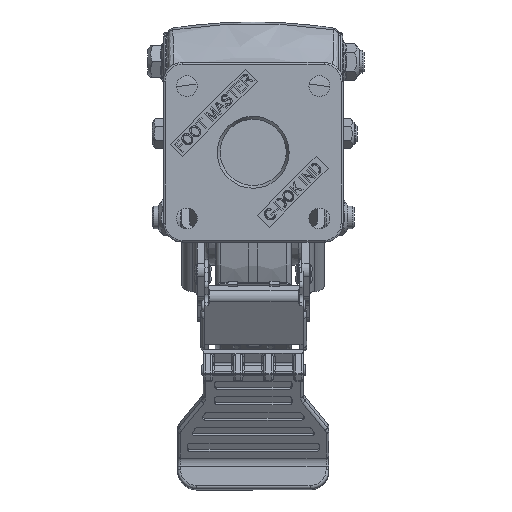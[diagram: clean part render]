
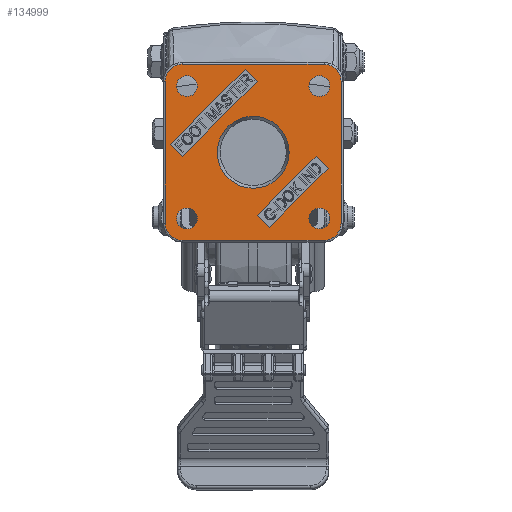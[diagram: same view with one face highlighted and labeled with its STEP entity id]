
A CAD part, top view. The second image highlights one B-rep face of the part: STEP entity #134999.
In plain terms, the highlighted planar face has unit normal (0, 0, 1).
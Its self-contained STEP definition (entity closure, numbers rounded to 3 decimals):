
#134617=CARTESIAN_POINT('',(-46.5,37.5,10.7));
#134618=VERTEX_POINT('',#134617);
#134627=CARTESIAN_POINT('',(-46.5,-37.5,10.7));
#134628=VERTEX_POINT('',#134627);
#134636=CARTESIAN_POINT('',(-46.5,-37.5,10.7));
#134637=DIRECTION('',(0.0,1.0,0.0));
#134638=VECTOR('',#134637,75.);
#134639=LINE('',#134636,#134638);
#134640=EDGE_CURVE('',#134628,#134618,#134639,.T.);
#134650=CARTESIAN_POINT('',(-37.5,46.5,10.7));
#134651=VERTEX_POINT('',#134650);
#134661=CARTESIAN_POINT('',(-37.5,37.5,10.7));
#134662=DIRECTION('',(0.0,0.0,-1.0));
#134663=DIRECTION('',(-0.707,0.707,0.0));
#134664=AXIS2_PLACEMENT_3D('',#134661,#134662,#134663);
#134665=CIRCLE('',#134664,9.);
#134666=EDGE_CURVE('',#134618,#134651,#134665,.T.);
#134676=CARTESIAN_POINT('',(-37.5,-46.5,10.7));
#134677=VERTEX_POINT('',#134676);
#134685=CARTESIAN_POINT('',(-37.5,-37.5,10.7));
#134686=DIRECTION('',(0.0,0.0,-1.0));
#134687=DIRECTION('',(-0.707,-0.707,0.0));
#134688=AXIS2_PLACEMENT_3D('',#134685,#134686,#134687);
#134689=CIRCLE('',#134688,9.);
#134690=EDGE_CURVE('',#134677,#134628,#134689,.T.);
#134702=CARTESIAN_POINT('',(37.5,46.5,10.7));
#134703=VERTEX_POINT('',#134702);
#134720=CARTESIAN_POINT('',(-37.5,46.5,10.7));
#134721=DIRECTION('',(1.0,0.0,0.0));
#134722=VECTOR('',#134721,75.0);
#134723=LINE('',#134720,#134722);
#134724=EDGE_CURVE('',#134651,#134703,#134723,.T.);
#134734=CARTESIAN_POINT('',(37.5,-46.5,10.7));
#134735=VERTEX_POINT('',#134734);
#134743=CARTESIAN_POINT('',(37.5,-46.5,10.7));
#134744=DIRECTION('',(-1.0,0.0,0.0));
#134745=VECTOR('',#134744,75.0);
#134746=LINE('',#134743,#134745);
#134747=EDGE_CURVE('',#134735,#134677,#134746,.T.);
#134759=CARTESIAN_POINT('',(46.5,37.5,10.7));
#134760=VERTEX_POINT('',#134759);
#134778=CARTESIAN_POINT('',(37.5,37.5,10.7));
#134779=DIRECTION('',(0.0,0.0,-1.0));
#134780=DIRECTION('',(0.707,0.707,0.0));
#134781=AXIS2_PLACEMENT_3D('',#134778,#134779,#134780);
#134782=CIRCLE('',#134781,9.);
#134783=EDGE_CURVE('',#134703,#134760,#134782,.T.);
#134795=CARTESIAN_POINT('',(46.5,-37.5,10.7));
#134796=VERTEX_POINT('',#134795);
#134804=CARTESIAN_POINT('',(37.5,-37.5,10.7));
#134805=DIRECTION('',(0.0,0.0,-1.0));
#134806=DIRECTION('',(0.707,-0.707,0.0));
#134807=AXIS2_PLACEMENT_3D('',#134804,#134805,#134806);
#134808=CIRCLE('',#134807,9.);
#134809=EDGE_CURVE('',#134796,#134735,#134808,.T.);
#134828=CARTESIAN_POINT('',(46.5,37.5,10.7));
#134829=DIRECTION('',(0.0,-1.0,0.0));
#134830=VECTOR('',#134829,75.);
#134831=LINE('',#134828,#134830);
#134832=EDGE_CURVE('',#134760,#134796,#134831,.T.);
#134861=CARTESIAN_POINT('',(0.,0.,10.7));
#134862=DIRECTION('',(0.0,0.0,1.0));
#134863=DIRECTION('',(1.0,0.0,0.0));
#134864=AXIS2_PLACEMENT_3D('',#134861,#134862,#134863);
#134865=PLANE('',#134864);
#134866=ORIENTED_EDGE('',*,*,#134640,.F.);
#134867=ORIENTED_EDGE('',*,*,#134690,.F.);
#134868=ORIENTED_EDGE('',*,*,#134747,.F.);
#134869=ORIENTED_EDGE('',*,*,#134809,.F.);
#134870=ORIENTED_EDGE('',*,*,#134832,.F.);
#134871=ORIENTED_EDGE('',*,*,#134783,.F.);
#134872=ORIENTED_EDGE('',*,*,#134724,.F.);
#134873=ORIENTED_EDGE('',*,*,#134666,.F.);
#134874=EDGE_LOOP('',(#134866,#134867,#134868,#134869,#134870,#134871,#134872,#134873));
#134875=FACE_OUTER_BOUND('',#134874,.T.);
#134876=CARTESIAN_POINT('',(19.,0.,10.7));
#134877=VERTEX_POINT('',#134876);
#134878=CARTESIAN_POINT('',(0.,0.,10.7));
#134879=DIRECTION('',(0.0,0.0,-1.0));
#134880=DIRECTION('',(1.0,0.0,0.0));
#134881=AXIS2_PLACEMENT_3D('',#134878,#134879,#134880);
#134882=CIRCLE('',#134881,19.0);
#134883=EDGE_CURVE('',#134877,#134877,#134882,.T.);
#134884=ORIENTED_EDGE('',*,*,#134883,.T.);
#134885=EDGE_LOOP('',(#134884));
#134886=FACE_BOUND('',#134885,.T.);
#134887=CARTESIAN_POINT('',(40.5,35.0,10.7));
#134888=VERTEX_POINT('',#134887);
#134889=CARTESIAN_POINT('',(35.,35.0,10.7));
#134890=DIRECTION('',(0.0,0.0,-1.0));
#134891=DIRECTION('',(-1.0,0.0,0.0));
#134892=AXIS2_PLACEMENT_3D('',#134889,#134890,#134891);
#134893=CIRCLE('',#134892,5.5);
#134894=EDGE_CURVE('',#134888,#134888,#134893,.T.);
#134895=ORIENTED_EDGE('',*,*,#134894,.T.);
#134896=EDGE_LOOP('',(#134895));
#134897=FACE_BOUND('',#134896,.T.);
#134898=CARTESIAN_POINT('',(-35.,40.5,10.7));
#134899=VERTEX_POINT('',#134898);
#134900=CARTESIAN_POINT('',(-35.,35.,10.7));
#134901=DIRECTION('',(0.0,0.0,-1.0));
#134902=DIRECTION('',(0.0,-1.0,0.0));
#134903=AXIS2_PLACEMENT_3D('',#134900,#134901,#134902);
#134904=CIRCLE('',#134903,5.5);
#134905=EDGE_CURVE('',#134899,#134899,#134904,.T.);
#134906=ORIENTED_EDGE('',*,*,#134905,.T.);
#134907=EDGE_LOOP('',(#134906));
#134908=FACE_BOUND('',#134907,.T.);
#134909=CARTESIAN_POINT('',(-40.5,-35.0,10.7));
#134910=VERTEX_POINT('',#134909);
#134911=CARTESIAN_POINT('',(-35.,-35.0,10.7));
#134912=DIRECTION('',(0.0,0.0,-1.0));
#134913=DIRECTION('',(1.0,0.0,0.0));
#134914=AXIS2_PLACEMENT_3D('',#134911,#134912,#134913);
#134915=CIRCLE('',#134914,5.5);
#134916=EDGE_CURVE('',#134910,#134910,#134915,.T.);
#134917=ORIENTED_EDGE('',*,*,#134916,.T.);
#134918=EDGE_LOOP('',(#134917));
#134919=FACE_BOUND('',#134918,.T.);
#134920=CARTESIAN_POINT('',(35.0,-40.5,10.7));
#134921=VERTEX_POINT('',#134920);
#134922=CARTESIAN_POINT('',(35.0,-35.,10.7));
#134923=DIRECTION('',(0.0,0.0,-1.0));
#134924=DIRECTION('',(0.0,1.0,0.0));
#134925=AXIS2_PLACEMENT_3D('',#134922,#134923,#134924);
#134926=CIRCLE('',#134925,5.5);
#134927=EDGE_CURVE('',#134921,#134921,#134926,.T.);
#134928=ORIENTED_EDGE('',*,*,#134927,.T.);
#134929=EDGE_LOOP('',(#134928));
#134930=FACE_BOUND('',#134929,.T.);
#134931=CARTESIAN_POINT('',(-43.841,4.243,10.7));
#134932=VERTEX_POINT('',#134931);
#134933=CARTESIAN_POINT('',(-4.243,43.841,10.7));
#134934=VERTEX_POINT('',#134933);
#134935=CARTESIAN_POINT('',(-43.841,4.243,10.7));
#134936=DIRECTION('',(0.707,0.707,0.0));
#134937=VECTOR('',#134936,56.);
#134938=LINE('',#134935,#134937);
#134939=EDGE_CURVE('',#134932,#134934,#134938,.T.);
#134940=ORIENTED_EDGE('',*,*,#134939,.T.);
#134941=CARTESIAN_POINT('',(2.121,37.477,10.7));
#134942=VERTEX_POINT('',#134941);
#134943=CARTESIAN_POINT('',(-4.243,43.841,10.7));
#134944=DIRECTION('',(0.707,-0.707,0.0));
#134945=VECTOR('',#134944,9.);
#134946=LINE('',#134943,#134945);
#134947=EDGE_CURVE('',#134934,#134942,#134946,.T.);
#134948=ORIENTED_EDGE('',*,*,#134947,.T.);
#134949=CARTESIAN_POINT('',(-37.477,-2.121,10.7));
#134950=VERTEX_POINT('',#134949);
#134951=CARTESIAN_POINT('',(2.121,37.477,10.7));
#134952=DIRECTION('',(-0.707,-0.707,0.0));
#134953=VECTOR('',#134952,56.);
#134954=LINE('',#134951,#134953);
#134955=EDGE_CURVE('',#134942,#134950,#134954,.T.);
#134956=ORIENTED_EDGE('',*,*,#134955,.T.);
#134957=CARTESIAN_POINT('',(-37.477,-2.121,10.7));
#134958=DIRECTION('',(-0.707,0.707,0.0));
#134959=VECTOR('',#134958,9.);
#134960=LINE('',#134957,#134959);
#134961=EDGE_CURVE('',#134950,#134932,#134960,.T.);
#134962=ORIENTED_EDGE('',*,*,#134961,.T.);
#134963=EDGE_LOOP('',(#134940,#134948,#134956,#134962));
#134964=FACE_BOUND('',#134963,.T.);
#134965=CARTESIAN_POINT('',(39.598,-8.485,10.7));
#134966=VERTEX_POINT('',#134965);
#134967=CARTESIAN_POINT('',(8.485,-39.598,10.7));
#134968=VERTEX_POINT('',#134967);
#134969=CARTESIAN_POINT('',(39.598,-8.485,10.7));
#134970=DIRECTION('',(-0.707,-0.707,0.0));
#134971=VECTOR('',#134970,44.);
#134972=LINE('',#134969,#134971);
#134973=EDGE_CURVE('',#134966,#134968,#134972,.T.);
#134974=ORIENTED_EDGE('',*,*,#134973,.T.);
#134975=CARTESIAN_POINT('',(2.121,-33.234,10.7));
#134976=VERTEX_POINT('',#134975);
#134977=CARTESIAN_POINT('',(8.485,-39.598,10.7));
#134978=DIRECTION('',(-0.707,0.707,0.0));
#134979=VECTOR('',#134978,9.);
#134980=LINE('',#134977,#134979);
#134981=EDGE_CURVE('',#134968,#134976,#134980,.T.);
#134982=ORIENTED_EDGE('',*,*,#134981,.T.);
#134983=CARTESIAN_POINT('',(33.234,-2.121,10.7));
#134984=VERTEX_POINT('',#134983);
#134985=CARTESIAN_POINT('',(2.121,-33.234,10.7));
#134986=DIRECTION('',(0.707,0.707,0.0));
#134987=VECTOR('',#134986,44.0);
#134988=LINE('',#134985,#134987);
#134989=EDGE_CURVE('',#134976,#134984,#134988,.T.);
#134990=ORIENTED_EDGE('',*,*,#134989,.T.);
#134991=CARTESIAN_POINT('',(33.234,-2.121,10.7));
#134992=DIRECTION('',(0.707,-0.707,0.0));
#134993=VECTOR('',#134992,9.);
#134994=LINE('',#134991,#134993);
#134995=EDGE_CURVE('',#134984,#134966,#134994,.T.);
#134996=ORIENTED_EDGE('',*,*,#134995,.T.);
#134997=EDGE_LOOP('',(#134974,#134982,#134990,#134996));
#134998=FACE_BOUND('',#134997,.T.);
#134999=ADVANCED_FACE('',(#134875,#134886,#134897,#134908,#134919,#134930,#134964,#134998),#134865,.T.);
